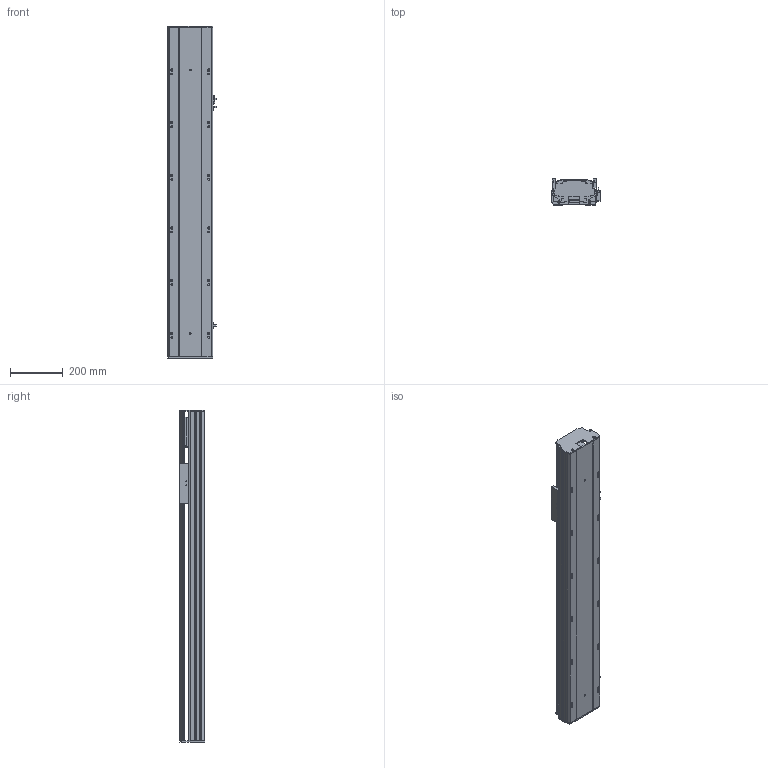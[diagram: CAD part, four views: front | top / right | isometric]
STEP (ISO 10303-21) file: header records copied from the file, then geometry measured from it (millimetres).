
FILE_DESCRIPTION (( 'STEP AP203' ), '1' );
FILE_NAME ('Y170-D10-S850-M-P400W.STEP', '2020-01-22T12:55:06', ( '微软用户' ), ( '微软中国' ), 'SwSTEP 2.0', 'SolidWorks 2017', '' );
FILE_SCHEMA (( 'CONFIG_CONTROL_DESIGN' ));
Length unit declared in the file: millimetre
Products named in the file (10): 170--掛极-M; Y170耜裔--準---M; san松下电机400不带刹车----; Y170-陔遴奻裔-M; YD-Y100-135-新外置传感挡片(通用）; Y170-D10-S850-M-P400W; Y100-135俋离換覜ん; 135-盓傅釱-FK15; Y170耜裔--準---; Y170--雄赽釱-梓--
Assembly tree (11 placements, depth 2):
  Y170-D10-S850-M-P400W
    YD-Y100-135-新外置传感挡片(通用）
    Y100-135俋离換覜ん  x3
    135-盓傅釱-FK15
    Y170耜裔--準---
    Y170--雄赽釱-梓--
    170--掛极-M
    Y170耜裔--準---M
    san松下电机400不带刹车----
    Y170-陔遴奻裔-M
Bounding box: 183.5 x 97 x 1261 mm (x, y, z)
Volume: 5484415.4 mm3; surface area: 1935043.9 mm2
Topology: 11 solids, 11 shells, 785 faces, 2228 edges, 1476 vertices
Faces by surface type: cylinder 399, plane 384, torus 2
Entity records: 25420 total; most frequent: CARTESIAN_POINT 4529, DIRECTION 4222, ORIENTED_EDGE 4120, EDGE_CURVE 2060, AXIS2_PLACEMENT_3D 1497, VERTEX_POINT 1364, LINE 1228, VECTOR 1228
